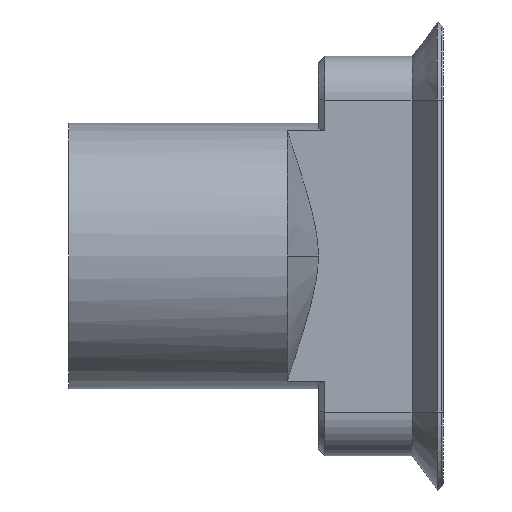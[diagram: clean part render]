
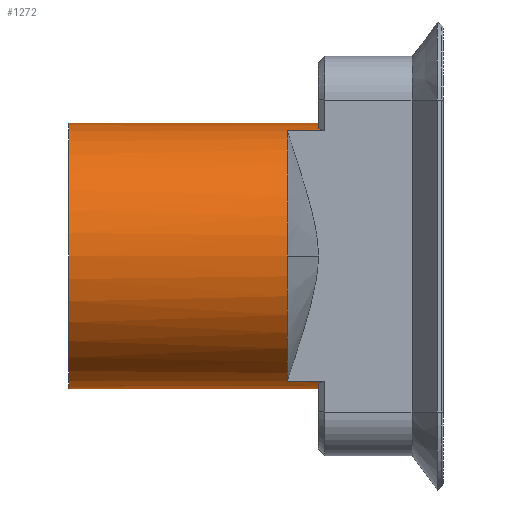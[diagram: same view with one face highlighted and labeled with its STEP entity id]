
A CAD part, left-side view. The second image highlights one B-rep face of the part: STEP entity #1272.
In plain terms, the highlighted cylindrical face has radius 4.25 mm (diameter 8.5 mm), a partial arc.
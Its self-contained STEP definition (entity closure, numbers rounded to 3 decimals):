
#2 = AXIS2_PLACEMENT_3D ( 'NONE', #408, #1112, #999 ) ;
#29 = CARTESIAN_POINT ( 'NONE',  ( 0., 12., -4.25 ) ) ;
#32 = CARTESIAN_POINT ( 'NONE',  ( -1.4, 3.8, -4.013 ) ) ;
#45 = CIRCLE ( 'NONE', #1204, 4.25 ) ;
#53 = CARTESIAN_POINT ( 'NONE',  ( -1.4, 3.012, -4.013 ) ) ;
#62 = DIRECTION ( 'NONE',  ( 0., -1., 0. ) ) ;
#68 = CIRCLE ( 'NONE', #746, 4.25 ) ;
#87 = CYLINDRICAL_SURFACE ( 'NONE', #993, 4.25 ) ;
#98 = DIRECTION ( 'NONE',  ( 0., -1., 0. ) ) ;
#109 = CARTESIAN_POINT ( 'NONE',  ( 0., 12., 4.25 ) ) ;
#142 = EDGE_CURVE ( 'NONE', #1502, #1121, #1190, .T. ) ;
#162 = CARTESIAN_POINT ( 'NONE',  ( 0., 12., 0. ) ) ;
#180 = CARTESIAN_POINT ( 'NONE',  ( -1.4, 3.012, 4.013 ) ) ;
#194 = VERTEX_POINT ( 'NONE', #1234 ) ;
#203 = CARTESIAN_POINT ( 'NONE',  ( 0., 5., 0. ) ) ;
#205 = LINE ( 'NONE', #180, #794 ) ;
#216 = ORIENTED_EDGE ( 'NONE', *, *, #492, .F. ) ;
#223 = DIRECTION ( 'NONE',  ( 0., -1., 0. ) ) ;
#240 = CARTESIAN_POINT ( 'NONE',  ( -1.2, 4., 4.077 ) ) ;
#254 = EDGE_LOOP ( 'NONE', ( #707, #473, #1324, #390, #918, #1140, #760, #689, #289, #216, #1447 ) ) ;
#287 = EDGE_CURVE ( 'NONE', #1302, #506, #205, .T. ) ;
#289 = ORIENTED_EDGE ( 'NONE', *, *, #287, .T. ) ;
#341 = VECTOR ( 'NONE', #98, 1000. ) ;
#356 = CARTESIAN_POINT ( 'NONE',  ( 0., 12., 4.25 ) ) ;
#363 = CARTESIAN_POINT ( 'NONE',  ( -1.4, 3.8, 4.013 ) ) ;
#387 = VERTEX_POINT ( 'NONE', #565 ) ;
#390 = ORIENTED_EDGE ( 'NONE', *, *, #698, .F. ) ;
#408 = CARTESIAN_POINT ( 'NONE',  ( 0., 4., 0. ) ) ;
#414 = DIRECTION ( 'NONE',  ( 0., -1., 0. ) ) ;
#448 = DIRECTION ( 'NONE',  ( 0., 0., -1. ) ) ;
#473 = ORIENTED_EDGE ( 'NONE', *, *, #855, .F. ) ;
#492 = EDGE_CURVE ( 'NONE', #1177, #506, #703, .T. ) ;
#504 = VERTEX_POINT ( 'NONE', #1422 ) ;
#506 = VERTEX_POINT ( 'NONE', #1532 ) ;
#565 = CARTESIAN_POINT ( 'NONE',  ( -4.25, 5., 0. ) ) ;
#573 = EDGE_CURVE ( 'NONE', #387, #797, #68, .T. ) ;
#574 = CARTESIAN_POINT ( 'NONE',  ( -1.4, 3.8, -4.013 ) ) ;
#596 = CARTESIAN_POINT ( 'NONE',  ( 0., 12., -4.25 ) ) ;
#632 = CARTESIAN_POINT ( 'NONE',  ( -1.267, 3.933, -4.057 ) ) ;
#644 = LINE ( 'NONE', #29, #341 ) ;
#689 = ORIENTED_EDGE ( 'NONE', *, *, #1059, .F. ) ;
#698 = EDGE_CURVE ( 'NONE', #1121, #504, #1188, .T. ) ;
#703 = B_SPLINE_CURVE_WITH_KNOTS ( 'NONE', 3,
 ( #240, #951, #1072, #363 ),
 .UNSPECIFIED., .F., .F.,
 ( 4, 4 ),
 ( 0., 1. ),
 .UNSPECIFIED. ) ;
#707 = ORIENTED_EDGE ( 'NONE', *, *, #1024, .F. ) ;
#717 = DIRECTION ( 'NONE',  ( 0., 0., -1. ) ) ;
#719 = CARTESIAN_POINT ( 'NONE',  ( -1.2, 4., -4.077 ) ) ;
#733 = CIRCLE ( 'NONE', #1050, 4.25 ) ;
#746 = AXIS2_PLACEMENT_3D ( 'NONE', #900, #62, #771 ) ;
#760 = ORIENTED_EDGE ( 'NONE', *, *, #573, .F. ) ;
#771 = DIRECTION ( 'NONE',  ( 0., 0., -1. ) ) ;
#790 = FACE_OUTER_BOUND ( 'NONE', #254, .T. ) ;
#794 = VECTOR ( 'NONE', #1368, 1000. ) ;
#797 = VERTEX_POINT ( 'NONE', #1200 ) ;
#827 = CARTESIAN_POINT ( 'NONE',  ( 0., 12., 0. ) ) ;
#855 = EDGE_CURVE ( 'NONE', #1402, #996, #45, .T. ) ;
#869 = CARTESIAN_POINT ( 'NONE',  ( -1.2, 4., -4.077 ) ) ;
#878 = DIRECTION ( 'NONE',  ( 0., 0., -1. ) ) ;
#900 = CARTESIAN_POINT ( 'NONE',  ( 0., 5., 0. ) ) ;
#918 = ORIENTED_EDGE ( 'NONE', *, *, #142, .F. ) ;
#938 = DIRECTION ( 'NONE',  ( 0., 0., -1. ) ) ;
#951 = CARTESIAN_POINT ( 'NONE',  ( -1.267, 3.933, 4.057 ) ) ;
#993 = AXIS2_PLACEMENT_3D ( 'NONE', #162, #414, #878 ) ;
#996 = VERTEX_POINT ( 'NONE', #356 ) ;
#999 = DIRECTION ( 'NONE',  ( 0., 0., -1. ) ) ;
#1024 = EDGE_CURVE ( 'NONE', #996, #194, #1410, .T. ) ;
#1050 = AXIS2_PLACEMENT_3D ( 'NONE', #1061, #223, #938 ) ;
#1059 = EDGE_CURVE ( 'NONE', #1302, #387, #1097, .T. ) ;
#1061 = CARTESIAN_POINT ( 'NONE',  ( 0., 4., 0. ) ) ;
#1072 = CARTESIAN_POINT ( 'NONE',  ( -1.334, 3.866, 4.036 ) ) ;
#1097 = CIRCLE ( 'NONE', #1101, 4.25 ) ;
#1101 = AXIS2_PLACEMENT_3D ( 'NONE', #203, #1154, #448 ) ;
#1108 = CARTESIAN_POINT ( 'NONE',  ( -1.334, 3.866, -4.036 ) ) ;
#1112 = DIRECTION ( 'NONE',  ( 0., -1., 0. ) ) ;
#1121 = VERTEX_POINT ( 'NONE', #719 ) ;
#1133 = VECTOR ( 'NONE', #1419, 1000. ) ;
#1140 = ORIENTED_EDGE ( 'NONE', *, *, #1236, .T. ) ;
#1149 = LINE ( 'NONE', #53, #1456 ) ;
#1154 = DIRECTION ( 'NONE',  ( 0., -1., 0. ) ) ;
#1177 = VERTEX_POINT ( 'NONE', #1372 ) ;
#1188 = CIRCLE ( 'NONE', #2, 4.25 ) ;
#1190 = B_SPLINE_CURVE_WITH_KNOTS ( 'NONE', 3,
 ( #32, #1108, #632, #869 ),
 .UNSPECIFIED., .F., .F.,
 ( 4, 4 ),
 ( 0., 1. ),
 .UNSPECIFIED. ) ;
#1200 = CARTESIAN_POINT ( 'NONE',  ( -1.4, 5., -4.013 ) ) ;
#1204 = AXIS2_PLACEMENT_3D ( 'NONE', #827, #1537, #717 ) ;
#1234 = CARTESIAN_POINT ( 'NONE',  ( 0., 4., 4.25 ) ) ;
#1236 = EDGE_CURVE ( 'NONE', #1502, #797, #1149, .T. ) ;
#1272 = ADVANCED_FACE ( 'NONE', ( #790 ), #87, .T. ) ;
#1302 = VERTEX_POINT ( 'NONE', #1390 ) ;
#1324 = ORIENTED_EDGE ( 'NONE', *, *, #1334, .T. ) ;
#1334 = EDGE_CURVE ( 'NONE', #1402, #504, #644, .T. ) ;
#1367 = DIRECTION ( 'NONE',  ( 0., 1., 0. ) ) ;
#1368 = DIRECTION ( 'NONE',  ( 0., -1., 0. ) ) ;
#1372 = CARTESIAN_POINT ( 'NONE',  ( -1.2, 4., 4.077 ) ) ;
#1390 = CARTESIAN_POINT ( 'NONE',  ( -1.4, 5., 4.013 ) ) ;
#1402 = VERTEX_POINT ( 'NONE', #596 ) ;
#1410 = LINE ( 'NONE', #109, #1133 ) ;
#1419 = DIRECTION ( 'NONE',  ( 0., -1., 0. ) ) ;
#1422 = CARTESIAN_POINT ( 'NONE',  ( 0., 4., -4.25 ) ) ;
#1447 = ORIENTED_EDGE ( 'NONE', *, *, #1495, .F. ) ;
#1456 = VECTOR ( 'NONE', #1367, 1000. ) ;
#1495 = EDGE_CURVE ( 'NONE', #194, #1177, #733, .T. ) ;
#1502 = VERTEX_POINT ( 'NONE', #574 ) ;
#1532 = CARTESIAN_POINT ( 'NONE',  ( -1.4, 3.8, 4.013 ) ) ;
#1537 = DIRECTION ( 'NONE',  ( 0., 1., 0. ) ) ;
